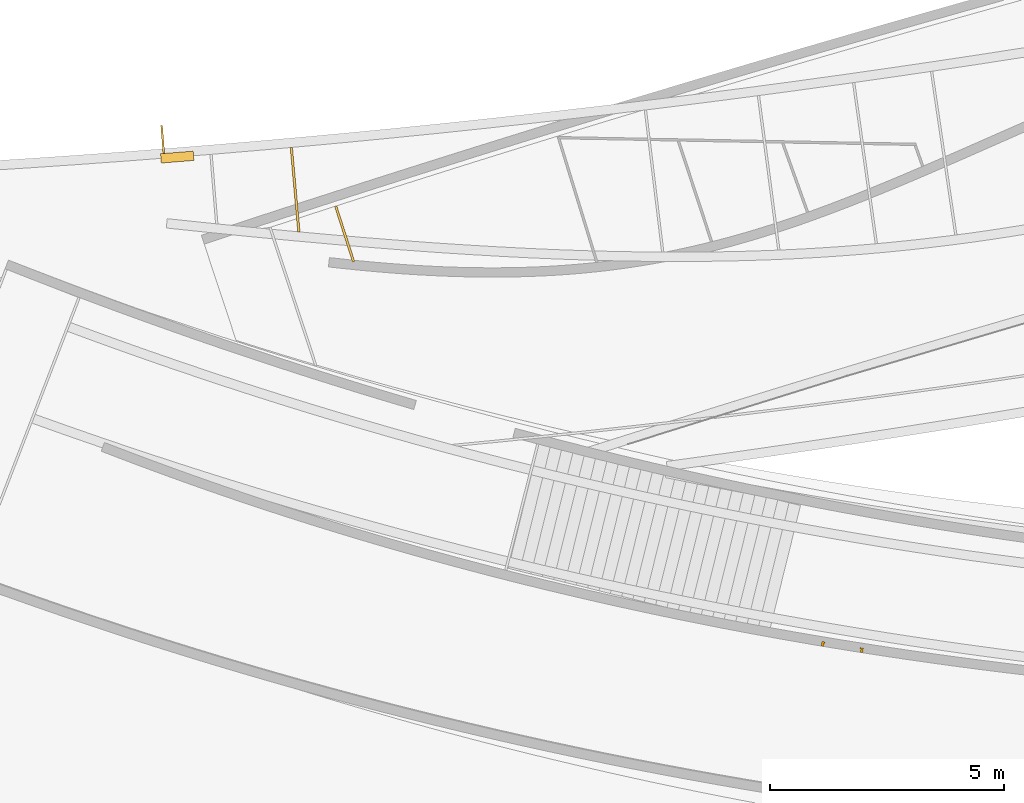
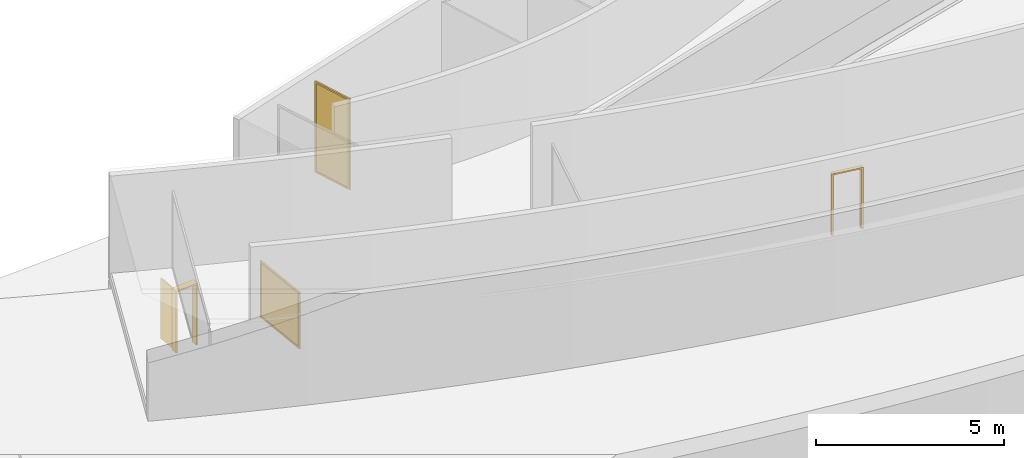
# Not in any storey, part 10 of 16: 2 curtain walls, 2 doors.
"""IFC2X3 model written with IfcOpenShell, lengths in millimetres."""

from ifc_helpers import new_model, entity, si_unit, converted_unit, direction, frame, origin_with_axes, place, context, project, spatial, open_shell, faceted_brep, surface_model, source, transform, mapped, type_object, element, save


model = new_model("IFC2X3")

# Units and contexts
model_context = context("Model", 3, precision=1.0, world=origin_with_axes(), true_north=direction((0.0, 1.0)))
ifc_project = project(units=[converted_unit("PLANEANGLEUNIT", "DEGREE", entity("IfcRatioMeasure", 0.017453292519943), si_unit("PLANEANGLEUNIT", "RADIAN"), dimensions=[0, 0, 0, 0, 0, 0, 0]), si_unit("LENGTHUNIT", "METRE", prefix="MILLI")], contexts=[model_context])

# Site
site_placement = place(None, origin_with_axes())
site = spatial("IfcSite", under=ifc_project, at=site_placement, Name="Site", CompositionType="ELEMENT")

# Curtain wall
curtain_wall_type = type_object("IfcCurtainWallType", Name="Single Panel", PredefinedType="USERDEFINED")
shared_shape_1 = source(origin_with_axes(), model_context, "Body", "Brep", [
    faceted_brep([(-44451.828125, -3955.19213867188, 4770.0), (-44402.02734375, -3950.72631835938, 4770.0), (-44406.4921875, -3900.92626953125, 4770.0), (-44483.03125, -3047.43310546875, 4770.0), (-44559.56640625, -2193.93994140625, 4770.0), (-44564.03125, -2144.1396484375, 4770.0), (-44613.83203125, -2148.60546875, 4770.0), (-44609.3671875, -2198.40576171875, 4770.0), (-44532.828125, -3051.89892578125, 4770.0), (-44456.29296875, -3905.39208984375, 4770.0), (-44402.02734375, -3950.72631835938, 4770.0), (-44402.02734375, -3950.72631835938, 4720.0), (-44483.03125, -3047.43310546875, 4720.0), (-44564.03125, -2144.1396484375, 4720.0), (-44564.03125, -2144.1396484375, 4770.0), (-44559.56640625, -2193.93994140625, 4770.0), (-44483.03125, -3047.43310546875, 4770.0), (-44406.4921875, -3900.92626953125, 4770.0), (-44451.828125, -3955.19213867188, 4720.0), (-44451.828125, -3955.19213867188, 4770.0), (-44456.29296875, -3905.39208984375, 4770.0), (-44532.828125, -3051.89892578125, 4770.0), (-44609.3671875, -2198.40576171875, 4770.0), (-44613.83203125, -2148.60546875, 4770.0), (-44613.83203125, -2148.60546875, 4720.0), (-44532.828125, -3051.89892578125, 4720.0), (-44402.02734375, -3950.72631835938, 4720.0), (-44451.828125, -3955.19213867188, 4720.0), (-44532.828125, -3051.89892578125, 4720.0), (-44613.83203125, -2148.60546875, 4720.0), (-44564.03125, -2144.1396484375, 4720.0), (-44483.03125, -3047.43310546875, 4720.0), (-44402.02734375, -3950.72631835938, 4770.0), (-44451.828125, -3955.19213867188, 4770.0), (-44451.828125, -3955.19213867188, 4720.0), (-44402.02734375, -3950.72631835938, 4720.0), (-44613.83203125, -2148.60546875, 4770.0), (-44564.03125, -2144.1396484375, 4770.0), (-44564.03125, -2144.1396484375, 4720.0), (-44613.83203125, -2148.60546875, 4720.0)], [[[0, 1, 2, 3, 4, 5, 6, 7, 8, 9]], [[10, 11, 12, 13, 14, 15, 16, 17]], [[18, 19, 20, 21, 22, 23, 24, 25]], [[26, 27, 28, 29, 30, 31]], [[32, 33, 34, 35]], [[36, 37, 38, 39]]]),
    faceted_brep([(-44564.03125, -2144.1396484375, 4770.0), (-44613.83203125, -2148.60546875, 4770.0), (-44613.83203125, -2148.60546875, 5637.11767578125), (-44613.83203125, -2148.60546875, 6504.23486328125), (-44564.03125, -2144.1396484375, 6504.23486328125), (-44564.03125, -2144.1396484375, 5637.11767578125), (-44559.56640625, -2193.93994140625, 4770.0), (-44561.80078125, -2169.03979492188, 4770.0), (-44564.03125, -2144.1396484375, 4770.0), (-44564.03125, -2144.1396484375, 5637.11767578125), (-44564.03125, -2144.1396484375, 6504.23486328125), (-44561.80078125, -2169.03979492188, 6504.23486328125), (-44559.56640625, -2193.93994140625, 6504.23486328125), (-44559.56640625, -2193.93994140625, 5637.11767578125), (-44613.83203125, -2148.60546875, 4770.0), (-44611.6015625, -2173.50561523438, 4770.0), (-44609.3671875, -2198.40576171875, 4770.0), (-44609.3671875, -2198.40576171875, 5637.11767578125), (-44609.3671875, -2198.40576171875, 6504.23486328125), (-44611.6015625, -2173.50561523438, 6504.23486328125), (-44613.83203125, -2148.60546875, 6504.23486328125), (-44613.83203125, -2148.60546875, 5637.11767578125), (-44609.3671875, -2198.40576171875, 4770.0), (-44559.56640625, -2193.93994140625, 4770.0), (-44559.56640625, -2193.93994140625, 5637.11767578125), (-44559.56640625, -2193.93994140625, 6504.23486328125), (-44609.3671875, -2198.40576171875, 6504.23486328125), (-44609.3671875, -2198.40576171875, 5637.11767578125), (-44559.56640625, -2193.93994140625, 4770.0), (-44609.3671875, -2198.40576171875, 4770.0), (-44611.6015625, -2173.50561523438, 4770.0), (-44613.83203125, -2148.60546875, 4770.0), (-44564.03125, -2144.1396484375, 4770.0), (-44561.80078125, -2169.03979492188, 4770.0), (-44609.3671875, -2198.40576171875, 6504.23486328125), (-44559.56640625, -2193.93994140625, 6504.23486328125), (-44561.80078125, -2169.03979492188, 6504.23486328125), (-44564.03125, -2144.1396484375, 6504.23486328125), (-44613.83203125, -2148.60546875, 6504.23486328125), (-44611.6015625, -2173.50561523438, 6504.23486328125)], [[[0, 1, 2, 3, 4, 5]], [[6, 7, 8, 9, 10, 11, 12, 13]], [[14, 15, 16, 17, 18, 19, 20, 21]], [[22, 23, 24, 25, 26, 27]], [[28, 29, 30, 31, 32, 33]], [[34, 35, 36, 37, 38, 39]]]),
    faceted_brep([(-44456.29296875, -3905.39208984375, 4770.0), (-44454.05859375, -3930.2919921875, 4770.0), (-44451.828125, -3955.19213867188, 4770.0), (-44451.828125, -3955.19213867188, 5637.11767578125), (-44451.828125, -3955.19213867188, 6504.23486328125), (-44454.05859375, -3930.2919921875, 6504.23486328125), (-44456.29296875, -3905.39208984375, 6504.23486328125), (-44456.29296875, -3905.39208984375, 5637.11767578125), (-44402.02734375, -3950.72631835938, 4770.0), (-44404.2578125, -3925.826171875, 4770.0), (-44406.4921875, -3900.92626953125, 4770.0), (-44406.4921875, -3900.92626953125, 5637.11767578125), (-44406.4921875, -3900.92626953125, 6504.23486328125), (-44404.2578125, -3925.826171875, 6504.23486328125), (-44402.02734375, -3950.72631835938, 6504.23486328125), (-44402.02734375, -3950.72631835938, 5637.11767578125), (-44451.828125, -3955.19213867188, 4770.0), (-44402.02734375, -3950.72631835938, 4770.0), (-44402.02734375, -3950.72631835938, 5637.11767578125), (-44402.02734375, -3950.72631835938, 6504.23486328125), (-44451.828125, -3955.19213867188, 6504.23486328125), (-44451.828125, -3955.19213867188, 5637.11767578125), (-44406.4921875, -3900.92626953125, 6504.23486328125), (-44456.29296875, -3905.39208984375, 6504.23486328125), (-44454.05859375, -3930.2919921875, 6504.23486328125), (-44451.828125, -3955.19213867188, 6504.23486328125), (-44402.02734375, -3950.72631835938, 6504.23486328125), (-44404.2578125, -3925.826171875, 6504.23486328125), (-44456.29296875, -3905.39208984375, 4770.0), (-44406.4921875, -3900.92626953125, 4770.0), (-44404.2578125, -3925.826171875, 4770.0), (-44402.02734375, -3950.72631835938, 4770.0), (-44451.828125, -3955.19213867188, 4770.0), (-44454.05859375, -3930.2919921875, 4770.0), (-44406.4921875, -3900.92626953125, 4770.0), (-44456.29296875, -3905.39208984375, 4770.0), (-44456.29296875, -3905.39208984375, 5637.11767578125), (-44456.29296875, -3905.39208984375, 6504.23486328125), (-44406.4921875, -3900.92626953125, 6504.23486328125), (-44406.4921875, -3900.92626953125, 5637.11767578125)], [[[0, 1, 2, 3, 4, 5, 6, 7]], [[8, 9, 10, 11, 12, 13, 14, 15]], [[16, 17, 18, 19, 20, 21]], [[22, 23, 24, 25, 26, 27]], [[28, 29, 30, 31, 32, 33]], [[34, 35, 36, 37, 38, 39]]]),
    faceted_brep([(-44451.828125, -3955.19213867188, 6504.23486328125), (-44451.828125, -3955.19213867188, 6554.23486328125), (-44532.828125, -3051.89892578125, 6554.23486328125), (-44613.83203125, -2148.60546875, 6554.23486328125), (-44613.83203125, -2148.60546875, 6504.23486328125), (-44609.3671875, -2198.40576171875, 6504.23486328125), (-44532.828125, -3051.89892578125, 6504.23486328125), (-44456.29296875, -3905.39208984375, 6504.23486328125), (-44402.02734375, -3950.72631835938, 6554.23486328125), (-44402.02734375, -3950.72631835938, 6504.23486328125), (-44406.4921875, -3900.92626953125, 6504.23486328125), (-44483.03125, -3047.43310546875, 6504.23486328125), (-44559.56640625, -2193.93994140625, 6504.23486328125), (-44564.03125, -2144.1396484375, 6504.23486328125), (-44564.03125, -2144.1396484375, 6554.23486328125), (-44483.03125, -3047.43310546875, 6554.23486328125), (-44402.02734375, -3950.72631835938, 6504.23486328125), (-44451.828125, -3955.19213867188, 6504.23486328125), (-44456.29296875, -3905.39208984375, 6504.23486328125), (-44532.828125, -3051.89892578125, 6504.23486328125), (-44609.3671875, -2198.40576171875, 6504.23486328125), (-44613.83203125, -2148.60546875, 6504.23486328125), (-44564.03125, -2144.1396484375, 6504.23486328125), (-44559.56640625, -2193.93994140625, 6504.23486328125), (-44483.03125, -3047.43310546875, 6504.23486328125), (-44406.4921875, -3900.92626953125, 6504.23486328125), (-44451.828125, -3955.19213867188, 6554.23486328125), (-44402.02734375, -3950.72631835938, 6554.23486328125), (-44483.03125, -3047.43310546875, 6554.23486328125), (-44564.03125, -2144.1396484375, 6554.23486328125), (-44613.83203125, -2148.60546875, 6554.23486328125), (-44532.828125, -3051.89892578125, 6554.23486328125), (-44564.03125, -2144.1396484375, 6504.23486328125), (-44613.83203125, -2148.60546875, 6504.23486328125), (-44613.83203125, -2148.60546875, 6554.23486328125), (-44564.03125, -2144.1396484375, 6554.23486328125), (-44451.828125, -3955.19213867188, 6504.23486328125), (-44402.02734375, -3950.72631835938, 6504.23486328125), (-44402.02734375, -3950.72631835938, 6554.23486328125), (-44451.828125, -3955.19213867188, 6554.23486328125)], [[[0, 1, 2, 3, 4, 5, 6, 7]], [[8, 9, 10, 11, 12, 13, 14, 15]], [[16, 17, 18, 19, 20, 21, 22, 23, 24, 25]], [[26, 27, 28, 29, 30, 31]], [[32, 33, 34, 35]], [[36, 37, 38, 39]]]),
])
shared_shape_2 = source(origin_with_axes(), model_context, "Body", "SurfaceModel", [
    surface_model("IfcShellBasedSurfaceModel", [(0.0, 0.0, 1734.23498535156), (0.0, 0.0, 0.0), (1713.83605957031, 0.0, 0.0), (1713.83605957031, 0.0, 1734.23498535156)], [open_shell([[[0, 1, 2, 3]]])]),
])
shared_shape_3 = source(origin_with_axes(), model_context, "Body", "MappedRepresentation", [
    mapped(shared_shape_1, transform((0.0, 0.0, 0.0))),
    mapped(shared_shape_2, transform((-44431.3920363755, -3903.15908320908, 4770.0), x_axis=(-0.089317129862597, 0.996003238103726, 0.0), y_axis=(-0.996003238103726, -0.089317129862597, 0.0))),
])
curtain_wall_1_placement = place(site_placement, origin_with_axes())
element("IfcCurtainWall", 1, at=curtain_wall_1_placement, inside=site, type_object=curtain_wall_type, ObjectType="Single Panel", context=model_context, shape_type="MappedRepresentation", body=[
    mapped(shared_shape_3, transform((0.0, 0.0, 0.0))),
])

# Doors
door_style_1 = type_object("IfcDoorStyle", Name="Hinged", ConstructionType="NOTDEFINED", OperationType="SINGLE_SWING_LEFT", ParameterTakesPrecedence=True, Sizeable=False)
shared_shape_4 = source(origin_with_axes(), model_context, "Body", "Brep", [
    faceted_brep([(-300.0, -100.0, 975.0), (-300.0, -100.0, 0.0), (-300.0, -2.27e-13, 0.0), (-300.0, 100.0, 0.0), (-300.0, 100.0, 975.0), (-300.0, 100.0, 1950.0), (-300.0, -100.0, 1950.0), (-300.0, -100.0, 0.0), (-350.0, -100.0, 0.0), (-350.0, 2.27e-13, 0.0), (-350.0, 100.0, 0.0), (-300.0, 100.0, 0.0), (-300.0, -2.27e-13, 0.0), (300.0, -100.0, 0.0), (350.0, -100.0, 0.0), (350.0, -100.0, 1000.0), (350.0, -100.0, 2000.0), (3.638e-12, -100.0, 2000.0), (-350.0, -100.0, 2000.0), (-350.0, -100.0, 1000.0), (-350.0, -100.0, 0.0), (-300.0, -100.0, 0.0), (-300.0, -100.0, 975.0), (-300.0, -100.0, 1950.0), (7.276e-12, -100.0, 1950.0), (300.0, -100.0, 1950.0), (300.0, -100.0, 975.0), (300.0, -100.0, 1950.0), (300.0, 100.0, 1950.0), (300.0, 100.0, 975.0), (300.0, 100.0, 0.0), (300.0, 2.27e-13, 0.0), (300.0, -100.0, 0.0), (300.0, -100.0, 975.0), (-300.0, -100.0, 1950.0), (-300.0, 100.0, 1950.0), (7.276e-12, 100.0, 1950.0), (300.0, 100.0, 1950.0), (300.0, -100.0, 1950.0), (7.276e-12, -100.0, 1950.0), (350.0, -100.0, 0.0), (300.0, -100.0, 0.0), (300.0, 2.27e-13, 0.0), (300.0, 100.0, 0.0), (350.0, 100.0, 0.0), (350.0, 2.27e-13, 0.0), (350.0, 100.0, 0.0), (300.0, 100.0, 0.0), (300.0, 100.0, 975.0), (300.0, 100.0, 1950.0), (7.276e-12, 100.0, 1950.0), (-300.0, 100.0, 1950.0), (-300.0, 100.0, 975.0), (-300.0, 100.0, 0.0), (-350.0, 100.0, 0.0), (-350.0, 100.0, 1000.0), (-350.0, 100.0, 2000.0), (3.638e-12, 100.0, 2000.0), (350.0, 100.0, 2000.0), (350.0, 100.0, 1000.0), (350.0, -100.0, 2000.0), (350.0, 100.0, 2000.0), (3.638e-12, 100.0, 2000.0), (-350.0, 100.0, 2000.0), (-350.0, -100.0, 2000.0), (3.638e-12, -100.0, 2000.0), (-350.0, -100.0, 2000.0), (-350.0, 100.0, 2000.0), (-350.0, 100.0, 1000.0), (-350.0, 100.0, 0.0), (-350.0, 2.27e-13, 0.0), (-350.0, -100.0, 0.0), (-350.0, -100.0, 1000.0), (350.0, -100.0, 1000.0), (350.0, -100.0, 0.0), (350.0, 2.27e-13, 0.0), (350.0, 100.0, 0.0), (350.0, 100.0, 1000.0), (350.0, 100.0, 2000.0), (350.0, -100.0, 2000.0)], [[[0, 1, 2, 3, 4, 5, 6]], [[7, 8, 9, 10, 11, 12]], [[13, 14, 15, 16, 17, 18, 19, 20, 21, 22, 23, 24, 25, 26]], [[27, 28, 29, 30, 31, 32, 33]], [[34, 35, 36, 37, 38, 39]], [[40, 41, 42, 43, 44, 45]], [[46, 47, 48, 49, 50, 51, 52, 53, 54, 55, 56, 57, 58, 59]], [[60, 61, 62, 63, 64, 65]], [[66, 67, 68, 69, 70, 71, 72]], [[73, 74, 75, 76, 77, 78, 79]]]),
    faceted_brep([(-260.0, 100.0, 0.0), (-300.0, 100.0, 0.0), (-300.0, 400.0, 0.0), (-300.0, 700.0, 0.0), (-260.0, 700.0, 0.0), (-260.0, 400.0, 0.0), (-260.0, 700.0, 975.0), (-260.0, 700.0, 1950.0), (-260.0, 400.0, 1950.0), (-260.0, 100.0, 1950.0), (-260.0, 100.0, 975.0), (-260.0, 100.0, 0.0), (-260.0, 400.0, 0.0), (-260.0, 700.0, 0.0), (-260.0, 700.0, 0.0), (-300.0, 700.0, 0.0), (-300.0, 700.0, 975.0), (-300.0, 700.0, 1950.0), (-260.0, 700.0, 1950.0), (-260.0, 700.0, 975.0), (-300.0, 700.0, 0.0), (-300.0, 400.0, 0.0), (-300.0, 100.0, 0.0), (-300.0, 100.0, 975.0), (-300.0, 100.0, 1950.0), (-300.0, 400.0, 1950.0), (-300.0, 700.0, 1950.0), (-300.0, 700.0, 975.0), (-260.0, 100.0, 1950.0), (-300.0, 100.0, 1950.0), (-300.0, 100.0, 975.0), (-300.0, 100.0, 0.0), (-260.0, 100.0, 0.0), (-260.0, 100.0, 975.0), (-260.0, 700.0, 1950.0), (-300.0, 700.0, 1950.0), (-300.0, 400.0, 1950.0), (-300.0, 100.0, 1950.0), (-260.0, 100.0, 1950.0), (-260.0, 400.0, 1950.0)], [[[0, 1, 2, 3, 4, 5]], [[6, 7, 8, 9, 10, 11, 12, 13]], [[14, 15, 16, 17, 18, 19]], [[20, 21, 22, 23, 24, 25, 26, 27]], [[28, 29, 30, 31, 32, 33]], [[34, 35, 36, 37, 38, 39]]]),
])
door_1_placement = place(site_placement, frame((-47031.4279767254, -2352.50563779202, 4720.0), z_axis=(0.0, 0.0, 1.0), x_axis=(0.996868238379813, 0.079080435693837, 0.0)))
element("IfcDoor", 2, at=door_1_placement, inside=site, type_object=door_style_1, ObjectType="Hinged", OverallHeight=2000.0, OverallWidth=700.0, context=model_context, shape_type="MappedRepresentation", body=[
    mapped(shared_shape_4, transform((0.0, 0.0, 0.0))),
])
door_style_2 = type_object("IfcDoorStyle", Name="HOKI", ConstructionType="NOTDEFINED", OperationType="NOTDEFINED", ParameterTakesPrecedence=True, Sizeable=False)
shared_shape_5 = source(origin_with_axes(), model_context, "Body", "Brep", [
    faceted_brep([(400.0, 50.0, -1.819e-12), (380.0, 50.0, -1.819e-12), (380.0, 50.0, 965.0), (380.0, 50.0, 1930.0), (-5.457e-12, 50.0, 1930.0), (-380.0, 50.0, 1930.0), (-380.0, 50.0, 965.0), (-380.0, 50.0, -1.819e-12), (-400.0, 50.0, -1.819e-12), (-400.0, 50.0, 975.0), (-400.0, 50.0, 1950.0), (-1.819e-12, 50.0, 1950.0), (400.0, 50.0, 1950.0), (400.0, 50.0, 975.0), (380.0, 20.0, 1930.0), (380.0, 50.0, 1930.0), (380.0, 50.0, 965.0), (380.0, 50.0, -1.819e-12), (380.0, 35.0, -1.819e-12), (380.0, 20.0, -1.819e-12), (380.0, 20.0, 965.0), (380.0, 50.0, -1.819e-12), (400.0, 50.0, -1.819e-12), (400.0, 35.0, -1.819e-12), (400.0, 20.0, -1.819e-12), (380.0, 20.0, -1.819e-12), (380.0, 35.0, -1.819e-12), (400.0, 50.0, -1.819e-12), (400.0, 50.0, 975.0), (400.0, 50.0, 1950.0), (400.0, 20.0, 1950.0), (400.0, 20.0, 975.0), (400.0, 20.0, -1.819e-12), (400.0, 35.0, -1.819e-12), (-400.0, 20.0, 1950.0), (-400.0, 50.0, 1950.0), (-400.0, 50.0, 975.0), (-400.0, 50.0, -1.819e-12), (-400.0, 35.0, -1.819e-12), (-400.0, 20.0, -1.819e-12), (-400.0, 20.0, 975.0), (400.0, 20.0, 1950.0), (400.0, 50.0, 1950.0), (-1.819e-12, 50.0, 1950.0), (-400.0, 50.0, 1950.0), (-400.0, 20.0, 1950.0), (-3.638e-12, 20.0, 1950.0), (-380.0, 50.0, -1.819e-12), (-380.0, 50.0, 965.0), (-380.0, 50.0, 1930.0), (-380.0, 20.0, 1930.0), (-380.0, 20.0, 965.0), (-380.0, 20.0, -1.819e-12), (-380.0, 35.0, -1.819e-12), (-380.0, 20.0, 1930.0), (-380.0, 50.0, 1930.0), (-5.457e-12, 50.0, 1930.0), (380.0, 50.0, 1930.0), (380.0, 20.0, 1930.0), (-5.457e-12, 20.0, 1930.0), (-400.0, 50.0, -1.819e-12), (-380.0, 50.0, -1.819e-12), (-380.0, 35.0, -1.819e-12), (-380.0, 20.0, -1.819e-12), (-400.0, 20.0, -1.819e-12), (-400.0, 35.0, -1.819e-12), (380.0, 20.0, -1.819e-12), (400.0, 20.0, -1.819e-12), (400.0, 20.0, 975.0), (400.0, 20.0, 1950.0), (-3.638e-12, 20.0, 1950.0), (-400.0, 20.0, 1950.0), (-400.0, 20.0, 975.0), (-400.0, 20.0, -1.819e-12), (-380.0, 20.0, -1.819e-12), (-380.0, 20.0, 965.0), (-380.0, 20.0, 1930.0), (-5.457e-12, 20.0, 1930.0), (380.0, 20.0, 1930.0), (380.0, 20.0, 965.0)], [[[0, 1, 2, 3, 4, 5, 6, 7, 8, 9, 10, 11, 12, 13]], [[14, 15, 16, 17, 18, 19, 20]], [[21, 22, 23, 24, 25, 26]], [[27, 28, 29, 30, 31, 32, 33]], [[34, 35, 36, 37, 38, 39, 40]], [[41, 42, 43, 44, 45, 46]], [[47, 48, 49, 50, 51, 52, 53]], [[54, 55, 56, 57, 58, 59]], [[60, 61, 62, 63, 64, 65]], [[66, 67, 68, 69, 70, 71, 72, 73, 74, 75, 76, 77, 78, 79]]]),
    faceted_brep([(-400.0, -50.0, -1.819e-12), (-450.0, -50.0, -1.819e-12), (-450.0, -1.819e-12, -1.819e-12), (-450.0, 50.0, -1.819e-12), (-400.0, 50.0, -1.819e-12), (-400.0, -1.819e-12, -1.819e-12), (400.0, -50.0, -1.819e-12), (450.0, -50.0, -1.819e-12), (450.0, -50.0, 1000.0), (450.0, -50.0, 2000.0), (-5.457e-12, -50.0, 2000.0), (-450.0, -50.0, 2000.0), (-450.0, -50.0, 1000.0), (-450.0, -50.0, -1.819e-12), (-400.0, -50.0, -1.819e-12), (-400.0, -50.0, 975.0), (-400.0, -50.0, 1950.0), (-3.638e-12, -50.0, 1950.0), (400.0, -50.0, 1950.0), (400.0, -50.0, 975.0), (400.0, -50.0, 1950.0), (400.0, 50.0, 1950.0), (400.0, 50.0, 975.0), (400.0, 50.0, -1.819e-12), (400.0, 0.0, -1.819e-12), (400.0, -50.0, -1.819e-12), (400.0, -50.0, 975.0), (-400.0, -50.0, 1950.0), (-400.0, 50.0, 1950.0), (0.0, 50.0, 1950.0), (400.0, 50.0, 1950.0), (400.0, -50.0, 1950.0), (-3.638e-12, -50.0, 1950.0), (-400.0, -50.0, 975.0), (-400.0, -50.0, -1.819e-12), (-400.0, -1.819e-12, -1.819e-12), (-400.0, 50.0, -1.819e-12), (-400.0, 50.0, 975.0), (-400.0, 50.0, 1950.0), (-400.0, -50.0, 1950.0), (-450.0, -50.0, 2000.0), (-450.0, 50.0, 2000.0), (-450.0, 50.0, 1000.0), (-450.0, 50.0, -1.819e-12), (-450.0, -1.819e-12, -1.819e-12), (-450.0, -50.0, -1.819e-12), (-450.0, -50.0, 1000.0), (450.0, -50.0, -1.819e-12), (400.0, -50.0, -1.819e-12), (400.0, 0.0, -1.819e-12), (400.0, 50.0, -1.819e-12), (450.0, 50.0, -1.819e-12), (450.0, -1.819e-12, -1.819e-12), (450.0, 50.0, -1.819e-12), (400.0, 50.0, -1.819e-12), (400.0, 50.0, 975.0), (400.0, 50.0, 1950.0), (0.0, 50.0, 1950.0), (-400.0, 50.0, 1950.0), (-400.0, 50.0, 975.0), (-400.0, 50.0, -1.819e-12), (-450.0, 50.0, -1.819e-12), (-450.0, 50.0, 1000.0), (-450.0, 50.0, 2000.0), (-3.638e-12, 50.0, 2000.0), (450.0, 50.0, 2000.0), (450.0, 50.0, 1000.0), (450.0, -50.0, 2000.0), (450.0, 50.0, 2000.0), (-3.638e-12, 50.0, 2000.0), (-450.0, 50.0, 2000.0), (-450.0, -50.0, 2000.0), (-5.457e-12, -50.0, 2000.0), (450.0, -50.0, 1000.0), (450.0, -50.0, -1.819e-12), (450.0, -1.819e-12, -1.819e-12), (450.0, 50.0, -1.819e-12), (450.0, 50.0, 1000.0), (450.0, 50.0, 2000.0), (450.0, -50.0, 2000.0)], [[[0, 1, 2, 3, 4, 5]], [[6, 7, 8, 9, 10, 11, 12, 13, 14, 15, 16, 17, 18, 19]], [[20, 21, 22, 23, 24, 25, 26]], [[27, 28, 29, 30, 31, 32]], [[33, 34, 35, 36, 37, 38, 39]], [[40, 41, 42, 43, 44, 45, 46]], [[47, 48, 49, 50, 51, 52]], [[53, 54, 55, 56, 57, 58, 59, 60, 61, 62, 63, 64, 65, 66]], [[67, 68, 69, 70, 71, 72]], [[73, 74, 75, 76, 77, 78, 79]]]),
])
door_2_placement = place(site_placement, frame((-32793.8015829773, -12842.0453798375, 9849.99645367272), z_axis=(0.0, 0.0, 1.0), x_axis=(0.98708256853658, -0.160212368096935, 0.0)))
element("IfcDoor", 3, at=door_2_placement, inside=site, type_object=door_style_2, ObjectType="HOKI", OverallHeight=2000.0, OverallWidth=900.0, context=model_context, shape_type="MappedRepresentation", body=[
    mapped(shared_shape_5, transform((0.0, 0.0, 0.0))),
])

# Curtain wall
shared_shape_6 = source(origin_with_axes(), model_context, "Body", "Brep", [
    faceted_brep([(-43663.3828125, -3409.46997070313, 9850.0), (-43663.3828125, -3409.46997070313, 9900.0), (-43639.58984375, -3401.79833984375, 9900.0), (-43615.796875, -3394.12670898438, 9900.0), (-43615.796875, -3394.12670898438, 9850.0), (-43639.58984375, -3401.79833984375, 9850.0), (-43615.796875, -3394.12670898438, 9900.0), (-43639.58984375, -3401.79833984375, 9900.0), (-43663.3828125, -3409.46997070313, 9900.0), (-43648.0390625, -3457.0576171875, 9900.0), (-43471.5703125, -4004.37329101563, 9900.0), (-43295.10546875, -4551.689453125, 9900.0), (-43279.76171875, -4599.27685546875, 9900.0), (-43255.96484375, -4591.60498046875, 9900.0), (-43232.171875, -4583.93359375, 9900.0), (-43247.515625, -4536.345703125, 9900.0), (-43423.984375, -3989.03002929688, 9900.0), (-43600.453125, -3441.71411132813, 9900.0), (-43663.3828125, -3409.46997070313, 9900.0), (-43663.3828125, -3409.46997070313, 9850.0), (-43471.5703125, -4004.37329101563, 9850.0), (-43279.76171875, -4599.27685546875, 9850.0), (-43279.76171875, -4599.27685546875, 9900.0), (-43295.10546875, -4551.689453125, 9900.0), (-43471.5703125, -4004.37329101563, 9900.0), (-43648.0390625, -3457.0576171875, 9900.0), (-43615.796875, -3394.12670898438, 9850.0), (-43615.796875, -3394.12670898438, 9900.0), (-43600.453125, -3441.71411132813, 9900.0), (-43423.984375, -3989.03002929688, 9900.0), (-43247.515625, -4536.345703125, 9900.0), (-43232.171875, -4583.93359375, 9900.0), (-43232.171875, -4583.93359375, 9850.0), (-43423.984375, -3989.03002929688, 9850.0), (-43279.76171875, -4599.27685546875, 9900.0), (-43279.76171875, -4599.27685546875, 9850.0), (-43255.96484375, -4591.60498046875, 9850.0), (-43232.171875, -4583.93359375, 9850.0), (-43232.171875, -4583.93359375, 9900.0), (-43255.96484375, -4591.60498046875, 9900.0), (-43663.3828125, -3409.46997070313, 9850.0), (-43639.58984375, -3401.79833984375, 9850.0), (-43615.796875, -3394.12670898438, 9850.0), (-43423.984375, -3989.03002929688, 9850.0), (-43232.171875, -4583.93359375, 9850.0), (-43255.96484375, -4591.60498046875, 9850.0), (-43279.76171875, -4599.27685546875, 9850.0), (-43471.5703125, -4004.37329101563, 9850.0)], [[[0, 1, 2, 3, 4, 5]], [[6, 7, 8, 9, 10, 11, 12, 13, 14, 15, 16, 17]], [[18, 19, 20, 21, 22, 23, 24, 25]], [[26, 27, 28, 29, 30, 31, 32, 33]], [[34, 35, 36, 37, 38, 39]], [[40, 41, 42, 43, 44, 45, 46, 47]]]),
    faceted_brep([(-43232.171875, -4583.93359375, 9900.0), (-43247.515625, -4536.345703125, 9900.0), (-43247.515625, -4536.345703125, 11325.0), (-43247.515625, -4536.345703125, 12750.0), (-43232.171875, -4583.93359375, 12750.0), (-43232.171875, -4583.93359375, 11325.0), (-43247.515625, -4536.345703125, 12750.0), (-43295.10546875, -4551.689453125, 12750.0), (-43279.76171875, -4599.27685546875, 12750.0), (-43232.171875, -4583.93359375, 12750.0), (-43279.76171875, -4599.27685546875, 9900.0), (-43232.171875, -4583.93359375, 9900.0), (-43232.171875, -4583.93359375, 11325.0), (-43232.171875, -4583.93359375, 12750.0), (-43279.76171875, -4599.27685546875, 12750.0), (-43279.76171875, -4599.27685546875, 11325.0), (-43295.10546875, -4551.689453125, 9900.0), (-43279.76171875, -4599.27685546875, 9900.0), (-43279.76171875, -4599.27685546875, 11325.0), (-43279.76171875, -4599.27685546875, 12750.0), (-43295.10546875, -4551.689453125, 12750.0), (-43295.10546875, -4551.689453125, 11325.0), (-43247.515625, -4536.345703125, 9900.0), (-43295.10546875, -4551.689453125, 9900.0), (-43295.10546875, -4551.689453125, 11325.0), (-43295.10546875, -4551.689453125, 12750.0), (-43247.515625, -4536.345703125, 12750.0), (-43247.515625, -4536.345703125, 11325.0), (-43295.10546875, -4551.689453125, 9900.0), (-43247.515625, -4536.345703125, 9900.0), (-43232.171875, -4583.93359375, 9900.0), (-43279.76171875, -4599.27685546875, 9900.0)], [[[0, 1, 2, 3, 4, 5]], [[6, 7, 8, 9]], [[10, 11, 12, 13, 14, 15]], [[16, 17, 18, 19, 20, 21]], [[22, 23, 24, 25, 26, 27]], [[28, 29, 30, 31]]]),
    faceted_brep([(-43615.796875, -3394.12670898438, 12750.0), (-43615.796875, -3394.12670898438, 12800.0), (-43423.984375, -3989.03002929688, 12800.0), (-43232.171875, -4583.93359375, 12800.0), (-43232.171875, -4583.93359375, 12750.0), (-43247.515625, -4536.345703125, 12750.0), (-43423.984375, -3989.03002929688, 12750.0), (-43600.453125, -3441.71411132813, 12750.0), (-43663.3828125, -3409.46997070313, 12750.0), (-43639.58984375, -3401.79833984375, 12750.0), (-43615.796875, -3394.12670898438, 12750.0), (-43600.453125, -3441.71411132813, 12750.0), (-43423.984375, -3989.03002929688, 12750.0), (-43247.515625, -4536.345703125, 12750.0), (-43232.171875, -4583.93359375, 12750.0), (-43255.96484375, -4591.60498046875, 12750.0), (-43279.76171875, -4599.27685546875, 12750.0), (-43295.10546875, -4551.689453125, 12750.0), (-43471.5703125, -4004.37329101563, 12750.0), (-43648.0390625, -3457.0576171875, 12750.0), (-43615.796875, -3394.12670898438, 12800.0), (-43615.796875, -3394.12670898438, 12750.0), (-43639.58984375, -3401.79833984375, 12750.0), (-43663.3828125, -3409.46997070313, 12750.0), (-43663.3828125, -3409.46997070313, 12800.0), (-43639.58984375, -3401.79833984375, 12800.0), (-43615.796875, -3394.12670898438, 12800.0), (-43639.58984375, -3401.79833984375, 12800.0), (-43663.3828125, -3409.46997070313, 12800.0), (-43471.5703125, -4004.37329101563, 12800.0), (-43279.76171875, -4599.27685546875, 12800.0), (-43255.96484375, -4591.60498046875, 12800.0), (-43232.171875, -4583.93359375, 12800.0), (-43423.984375, -3989.03002929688, 12800.0), (-43232.171875, -4583.93359375, 12750.0), (-43232.171875, -4583.93359375, 12800.0), (-43255.96484375, -4591.60498046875, 12800.0), (-43279.76171875, -4599.27685546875, 12800.0), (-43279.76171875, -4599.27685546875, 12750.0), (-43255.96484375, -4591.60498046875, 12750.0), (-43663.3828125, -3409.46997070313, 12800.0), (-43663.3828125, -3409.46997070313, 12750.0), (-43648.0390625, -3457.0576171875, 12750.0), (-43471.5703125, -4004.37329101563, 12750.0), (-43295.10546875, -4551.689453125, 12750.0), (-43279.76171875, -4599.27685546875, 12750.0), (-43279.76171875, -4599.27685546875, 12800.0), (-43471.5703125, -4004.37329101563, 12800.0)], [[[0, 1, 2, 3, 4, 5, 6, 7]], [[8, 9, 10, 11, 12, 13, 14, 15, 16, 17, 18, 19]], [[20, 21, 22, 23, 24, 25]], [[26, 27, 28, 29, 30, 31, 32, 33]], [[34, 35, 36, 37, 38, 39]], [[40, 41, 42, 43, 44, 45, 46, 47]]]),
    faceted_brep([(-43600.453125, -3441.71411132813, 9900.0), (-43608.125, -3417.92041015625, 9900.0), (-43615.796875, -3394.12670898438, 9900.0), (-43615.796875, -3394.12670898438, 11325.0), (-43615.796875, -3394.12670898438, 12750.0), (-43608.125, -3417.92041015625, 12750.0), (-43600.453125, -3441.71411132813, 12750.0), (-43600.453125, -3441.71411132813, 11325.0), (-43615.796875, -3394.12670898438, 9900.0), (-43663.3828125, -3409.46997070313, 9900.0), (-43663.3828125, -3409.46997070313, 11325.0), (-43663.3828125, -3409.46997070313, 12750.0), (-43615.796875, -3394.12670898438, 12750.0), (-43615.796875, -3394.12670898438, 11325.0), (-43648.0390625, -3457.0576171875, 9900.0), (-43600.453125, -3441.71411132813, 9900.0), (-43600.453125, -3441.71411132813, 11325.0), (-43600.453125, -3441.71411132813, 12750.0), (-43648.0390625, -3457.0576171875, 12750.0), (-43648.0390625, -3457.0576171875, 11325.0), (-43648.0390625, -3457.0576171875, 12750.0), (-43600.453125, -3441.71411132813, 12750.0), (-43608.125, -3417.92041015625, 12750.0), (-43615.796875, -3394.12670898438, 12750.0), (-43663.3828125, -3409.46997070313, 12750.0), (-43655.7109375, -3433.26391601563, 12750.0), (-43600.453125, -3441.71411132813, 9900.0), (-43648.0390625, -3457.0576171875, 9900.0), (-43655.7109375, -3433.26391601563, 9900.0), (-43663.3828125, -3409.46997070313, 9900.0), (-43615.796875, -3394.12670898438, 9900.0), (-43608.125, -3417.92041015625, 9900.0), (-43663.3828125, -3409.46997070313, 9900.0), (-43655.7109375, -3433.26391601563, 9900.0), (-43648.0390625, -3457.0576171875, 9900.0), (-43648.0390625, -3457.0576171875, 11325.0), (-43648.0390625, -3457.0576171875, 12750.0), (-43655.7109375, -3433.26391601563, 12750.0), (-43663.3828125, -3409.46997070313, 12750.0), (-43663.3828125, -3409.46997070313, 11325.0)], [[[0, 1, 2, 3, 4, 5, 6, 7]], [[8, 9, 10, 11, 12, 13]], [[14, 15, 16, 17, 18, 19]], [[20, 21, 22, 23, 24, 25]], [[26, 27, 28, 29, 30, 31]], [[32, 33, 34, 35, 36, 37, 38, 39]]]),
])
shared_shape_7 = source(origin_with_axes(), model_context, "Body", "SurfaceModel", [
    surface_model("IfcShellBasedSurfaceModel", [(0.0, 0.0, 2850.0), (0.0, 0.0, 0.0), (1150.12280273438, 0.0, 0.0), (1150.12280273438, 0.0, 2850.0)], [open_shell([[[0, 1, 2, 3]]])]),
])
shared_shape_8 = source(origin_with_axes(), model_context, "Body", "MappedRepresentation", [
    mapped(shared_shape_6, transform((0.0, 0.0, 0.0))),
    mapped(shared_shape_7, transform((-43624.2462927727, -3449.38589444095, 9900.0), x_axis=(0.306868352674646, -0.95175197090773, 0.0), y_axis=(0.95175197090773, 0.306868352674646, 0.0))),
])
curtain_wall_2_placement = place(site_placement, origin_with_axes())
element("IfcCurtainWall", 4, at=curtain_wall_2_placement, inside=site, type_object=curtain_wall_type, ObjectType="Single Panel", context=model_context, shape_type="MappedRepresentation", body=[
    mapped(shared_shape_8, transform((0.0, 0.0, 0.0))),
])

save(model, "model.ifc")
